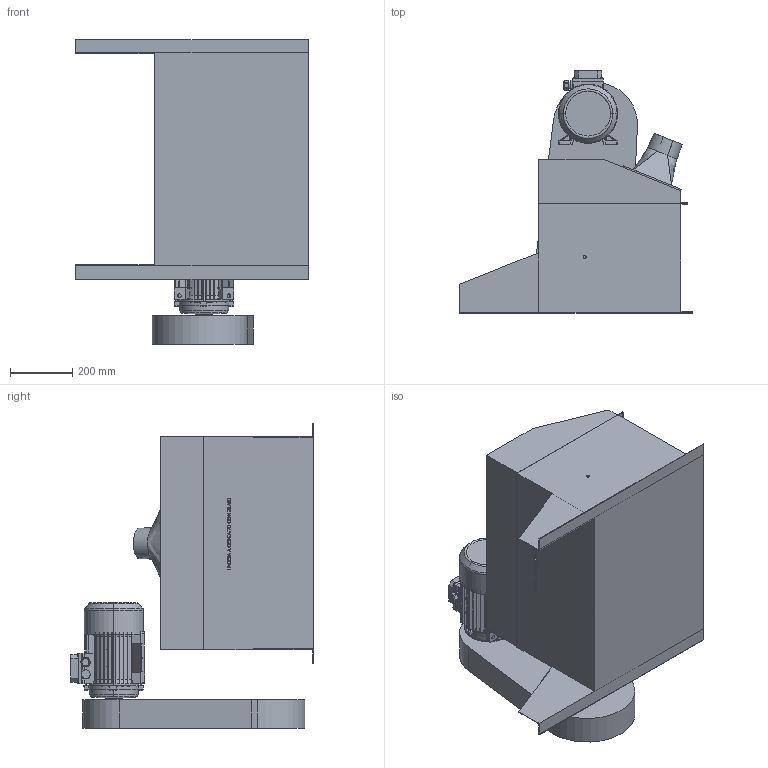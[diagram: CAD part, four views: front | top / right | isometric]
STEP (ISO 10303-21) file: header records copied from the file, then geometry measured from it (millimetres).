
FILE_DESCRIPTION (( 'STEP AP203' ), '1' );
FILE_NAME ('30045.step', '2019-03-14T14:31:08', ( 'PC' ), ( 'Hewlett-Packard Company' ), 'SwSTEP 2.0', 'SolidWorks 2016', '' );
FILE_SCHEMA (( 'CONFIG_CONTROL_DESIGN' ));
Length unit declared in the file: millimetre
Products named in the file (1): 30045
Bounding box: 750 x 781.02 x 982 mm (x, y, z)
Volume: 173782041.5 mm3; surface area: 4062079.6 mm2
Topology: 9 solids, 10 shells, 979 faces, 2532 edges, 1630 vertices
Faces by surface type: plane 661, cylinder 117, cone 109, bspline 86, torus 6
Entity records: 40571 total; most frequent: CARTESIAN_POINT 17252, ORIENTED_EDGE 5056, DIRECTION 4384, EDGE_CURVE 2528, LINE 1692, VECTOR 1692, VERTEX_POINT 1630, AXIS2_PLACEMENT_3D 1346
